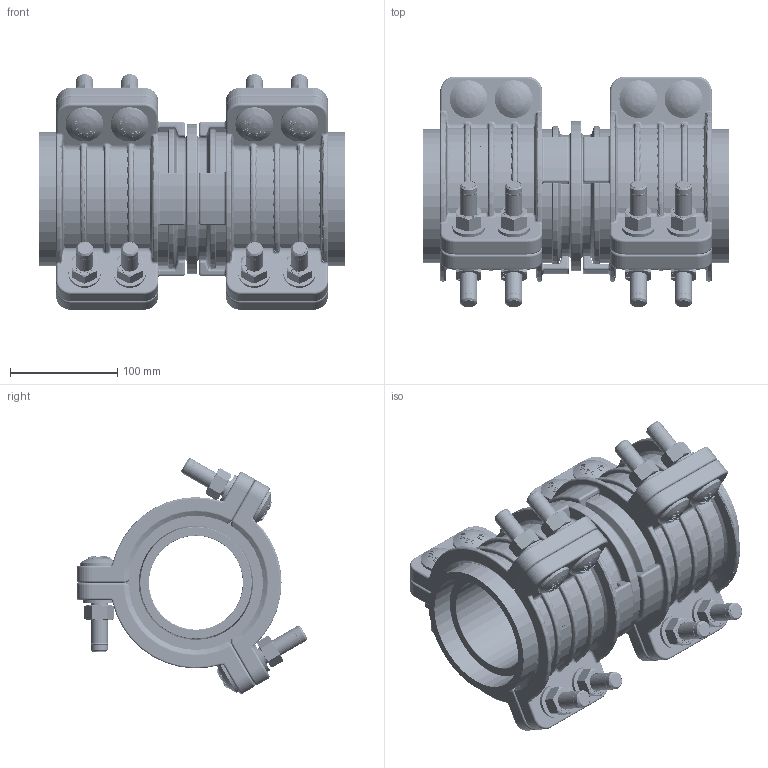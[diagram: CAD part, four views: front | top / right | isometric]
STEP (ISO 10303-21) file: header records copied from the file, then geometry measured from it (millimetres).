
FILE_DESCRIPTION((''),'2;1');
FILE_NAME('13642_4_ASM','2023-08-31T09:17:09',('catrombini'),(''),'CREO PARAMETRIC BY PTC INC, 2020454','CREO PARAMETRIC BY PTC INC, 2020454','');
FILE_SCHEMA(('CONFIG_CONTROL_DESIGN'));
Length unit declared in the file: millimetre
Products named in the file (8): 13637_MACHINED_6; 13638_3; 12568_7; 10467_4; 10493_6; 7896_10; PE_125_SDR17; 13642_4_ASM
Assembly tree (57 placements, depth 2):
  13642_4_ASM
    13637_MACHINED_6
    13638_3  x6
    12568_7  x12
    10467_4  x12
    10493_6  x12
    7896_10  x12
    PE_125_SDR17  x2
Bounding box: 284 x 214.74 x 219.45 mm (x, y, z)
Volume: 2997486.6 mm3; surface area: 1043600.6 mm2
Topology: 57 solids, 93 shells, 9486 faces, 25362 edges, 16276 vertices
Faces by surface type: plane 6634, cylinder 1084, torus 670, bspline 456, cone 402, sphere 240
Entity records: 45097 total; most frequent: CARTESIAN_POINT 13396, ORIENTED_EDGE 6758, DIRECTION 6456, EDGE_CURVE 3387, AXIS2_PLACEMENT_3D 2543, VERTEX_POINT 2123, VECTOR 1370, LINE 1370
